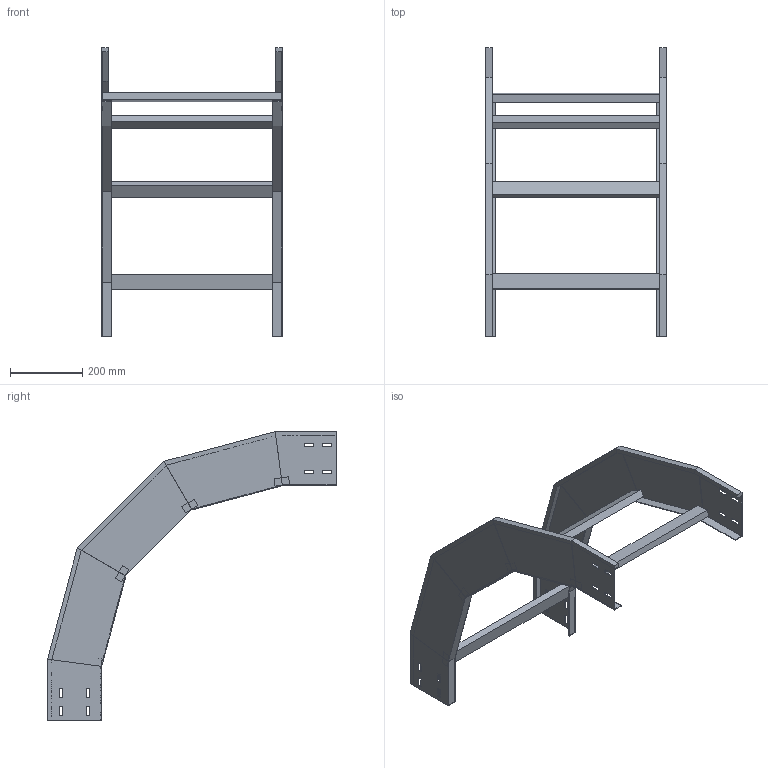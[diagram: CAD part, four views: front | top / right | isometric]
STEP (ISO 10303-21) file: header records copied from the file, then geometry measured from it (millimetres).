
FILE_DESCRIPTION (( 'STEP AP214' ), '1' );
FILE_NAME ('33J5F500.step', '2025-02-21T16:23:10', ( '' ), ( '' ), 'SwSTEP 2.0', 'SolidWorks 2023', '' );
FILE_SCHEMA (( 'AUTOMOTIVE_DESIGN' ));
Length unit declared in the file: millimetre
Products named in the file (3): 33J5F500; LONGH.DISCESA_90°_H150_R500; TRAVERSINO_500
Assembly tree (6 placements, depth 2):
  33J5F500
    LONGH.DISCESA_90°_H150_R500  x2
    TRAVERSINO_500  x4
Bounding box: 500 x 800.35 x 800.35 mm (x, y, z)
Volume: 2927781.6 mm3; surface area: 1162910.1 mm2
Topology: 6 solids, 6 shells, 172 faces, 416 edges, 256 vertices
Faces by surface type: plane 172
Entity records: 2416 total; most frequent: CARTESIAN_POINT 405, ORIENTED_EDGE 392, DIRECTION 374, VECTOR 196, LINE 196, EDGE_CURVE 196, VERTEX_POINT 120, EDGE_LOOP 96
